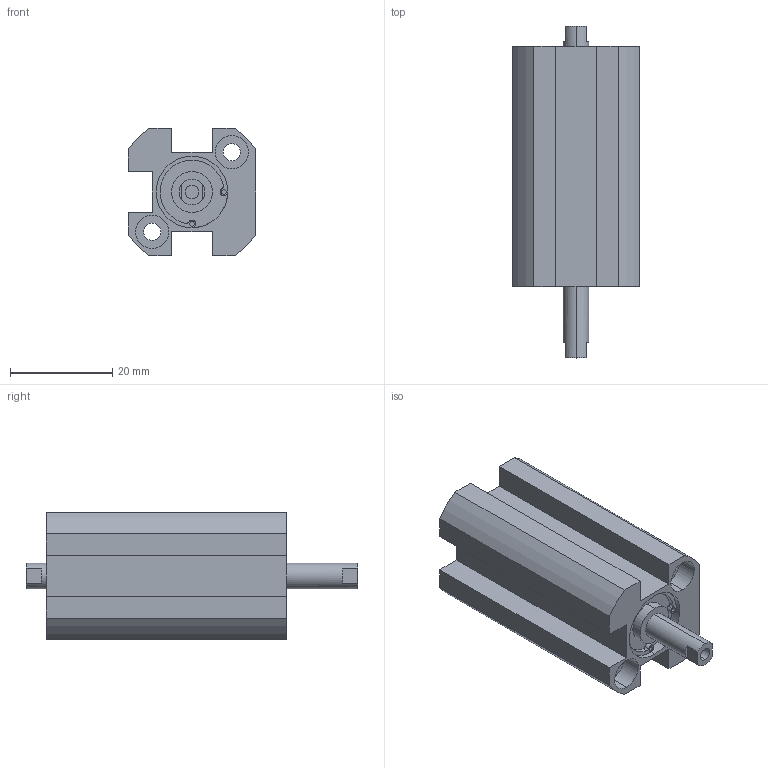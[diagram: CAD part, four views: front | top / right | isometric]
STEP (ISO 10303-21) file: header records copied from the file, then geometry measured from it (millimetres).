
FILE_DESCRIPTION (( 'STEP AP203' ), '1' );
FILE_NAME ('XG#7-10D-10.STEP', '2016-05-24T01:55:35', ( '' ), ( '' ), 'SwSTEP 2.0', 'SolidWorks 2014', '' );
FILE_SCHEMA (( 'CONFIG_CONTROL_DESIGN' ));
Length unit declared in the file: millimetre
Products named in the file (1): XG#7-10D-10
Bounding box: 25 x 65 x 25 mm (x, y, z)
Volume: 20960.1 mm3; surface area: 8640.7 mm2
Topology: 1 solids, 1 shells, 106 faces, 258 edges, 168 vertices
Faces by surface type: cylinder 58, plane 44, cone 4
Entity records: 3217 total; most frequent: DIRECTION 594, CARTESIAN_POINT 529, ORIENTED_EDGE 508, EDGE_CURVE 254, AXIS2_PLACEMENT_3D 233, VERTEX_POINT 168, EDGE_LOOP 128, VECTOR 128
